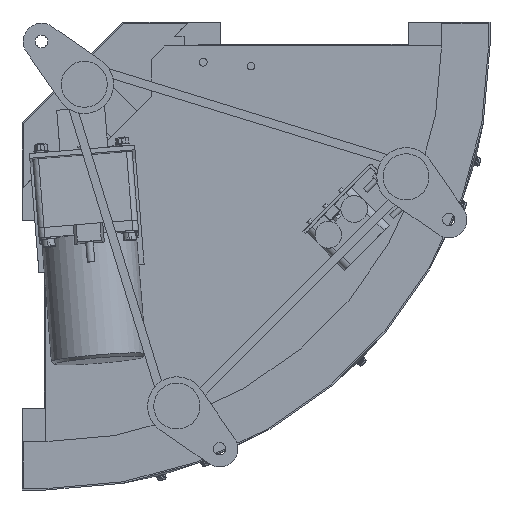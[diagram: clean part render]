
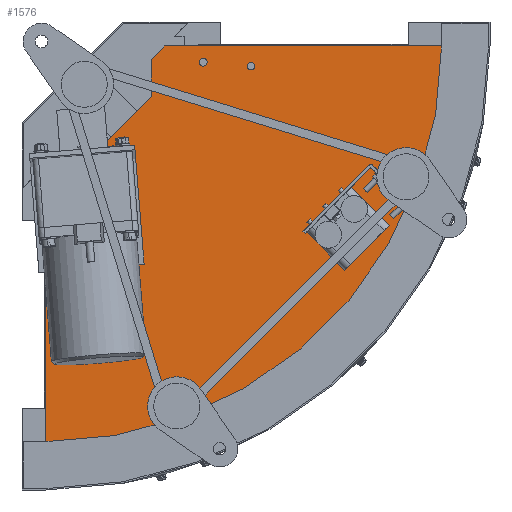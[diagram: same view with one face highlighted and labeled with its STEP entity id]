
A CAD part, front view. The second image highlights one B-rep face of the part: STEP entity #1576.
In plain terms, the highlighted planar face has unit normal (0, -1, 0).
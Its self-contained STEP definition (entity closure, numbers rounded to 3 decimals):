
#1576=ADVANCED_FACE('',(#3197,#3198,#3199,#3200,#3201),#3196,.F.);
#3196=PLANE('',#14180);
#3197=FACE_OUTER_BOUND('',#14181,.T.);
#3198=FACE_BOUND('',#14182,.T.);
#3199=FACE_BOUND('',#14183,.T.);
#3200=FACE_BOUND('',#14184,.T.);
#3201=FACE_BOUND('',#14185,.T.);
#14177=CARTESIAN_POINT('',(-10.,-142.5,-422.5));
#14178=DIRECTION('',(0.,1.,0.));
#14179=DIRECTION('',(0.,0.,1.));
#14180=AXIS2_PLACEMENT_3D('',#14177,#14178,#14179);
#14181=EDGE_LOOP('',(#21599,#21600,#21601,#21602,#21603,#21604,#21605,#21606));
#14182=EDGE_LOOP('',(#21607,#21608));
#14183=EDGE_LOOP('',(#21609,#21610));
#14184=EDGE_LOOP('',(#21611,#21612));
#14185=EDGE_LOOP('',(#21613,#21614));
#21599=ORIENTED_EDGE('',*,*,#26398,.F.);
#21600=ORIENTED_EDGE('',*,*,#26401,.F.);
#21601=ORIENTED_EDGE('',*,*,#26496,.T.);
#21602=ORIENTED_EDGE('',*,*,#26589,.F.);
#21603=ORIENTED_EDGE('',*,*,#26590,.F.);
#21604=ORIENTED_EDGE('',*,*,#26591,.F.);
#21605=ORIENTED_EDGE('',*,*,#26592,.T.);
#21606=ORIENTED_EDGE('',*,*,#26394,.F.);
#21607=ORIENTED_EDGE('',*,*,#26593,.F.);
#21608=ORIENTED_EDGE('',*,*,#26594,.F.);
#21609=ORIENTED_EDGE('',*,*,#26595,.F.);
#21610=ORIENTED_EDGE('',*,*,#26596,.F.);
#21611=ORIENTED_EDGE('',*,*,#26597,.F.);
#21612=ORIENTED_EDGE('',*,*,#26598,.F.);
#21613=ORIENTED_EDGE('',*,*,#26599,.F.);
#21614=ORIENTED_EDGE('',*,*,#26600,.F.);
#26394=EDGE_CURVE('',#29249,#29256,#29257,.T.);
#26398=EDGE_CURVE('',#29276,#29249,#29283,.T.);
#26401=EDGE_CURVE('',#29296,#29276,#29303,.T.);
#26496=EDGE_CURVE('',#29296,#29960,#29961,.T.);
#26589=EDGE_CURVE('',#30587,#29960,#30588,.T.);
#26590=EDGE_CURVE('',#30594,#30587,#30595,.T.);
#26591=EDGE_CURVE('',#30601,#30594,#30602,.T.);
#26592=EDGE_CURVE('',#30601,#29256,#30608,.T.);
#26593=EDGE_CURVE('',#30614,#30615,#30616,.T.);
#26594=EDGE_CURVE('',#30615,#30614,#30622,.T.);
#26595=EDGE_CURVE('',#30628,#30629,#30630,.T.);
#26596=EDGE_CURVE('',#30629,#30628,#30636,.T.);
#26597=EDGE_CURVE('',#30642,#30643,#30644,.T.);
#26598=EDGE_CURVE('',#30643,#30642,#30650,.T.);
#26599=EDGE_CURVE('',#30656,#30657,#30658,.T.);
#26600=EDGE_CURVE('',#30657,#30656,#30664,.T.);
#29249=VERTEX_POINT('',#46318);
#29256=VERTEX_POINT('',#46322);
#29257=LINE('',#46323,#46324);
#29276=VERTEX_POINT('',#46333);
#29283=LINE('',#46337,#46338);
#29296=VERTEX_POINT('',#46344);
#29303=LINE('',#46348,#46349);
#29960=VERTEX_POINT('',#47076);
#29961=LINE('',#47077,#47078);
#30587=VERTEX_POINT('',#47882);
#30588=LINE('',#47883,#47884);
#30594=VERTEX_POINT('',#47886);
#30595=CIRCLE('',#47890,412.5);
#30601=VERTEX_POINT('',#47891);
#30602=LINE('',#47892,#47893);
#30608=LINE('',#47895,#47896);
#30614=VERTEX_POINT('',#47898);
#30615=VERTEX_POINT('',#47899);
#30616=CIRCLE('',#47903,4.);
#30622=CIRCLE('',#47907,4.);
#30628=VERTEX_POINT('',#47908);
#30629=VERTEX_POINT('',#47909);
#30630=CIRCLE('',#47913,4.);
#30636=CIRCLE('',#47917,4.);
#30642=VERTEX_POINT('',#47918);
#30643=VERTEX_POINT('',#47919);
#30644=CIRCLE('',#47923,4.);
#30650=CIRCLE('',#47927,4.);
#30656=VERTEX_POINT('',#47928);
#30657=VERTEX_POINT('',#47929);
#30658=CIRCLE('',#47933,4.);
#30664=CIRCLE('',#47937,4.);
#46318=CARTESIAN_POINT('',(110.,-142.5,-52.635));
#46322=CARTESIAN_POINT('',(110.,-142.5,-14.1));
#46323=CARTESIAN_POINT('',(110.,-142.5,-52.635));
#46324=VECTOR('',#46325,38.535);
#46325=DIRECTION('',(0.,0.,1.));
#46333=CARTESIAN_POINT('',(52.635,-142.5,-110.));
#46337=CARTESIAN_POINT('',(52.635,-142.5,-110.));
#46338=VECTOR('',#46339,81.127);
#46339=DIRECTION('',(0.707,0.,0.707));
#46344=CARTESIAN_POINT('',(14.1,-142.5,-110.));
#46348=CARTESIAN_POINT('',(14.1,-142.5,-110.));
#46349=VECTOR('',#46350,38.535);
#46350=DIRECTION('',(1.,0.,0.));
#47076=CARTESIAN_POINT('',(0.,-142.5,-124.1));
#47077=CARTESIAN_POINT('',(14.1,-142.5,-110.));
#47078=VECTOR('',#47079,19.94);
#47079=DIRECTION('',(-0.707,0.,-0.707));
#47882=CARTESIAN_POINT('',(0.,-142.5,-412.5));
#47883=CARTESIAN_POINT('',(0.,-142.5,-412.5));
#47884=VECTOR('',#47885,288.4);
#47885=DIRECTION('',(0.,0.,1.));
#47886=CARTESIAN_POINT('',(412.5,-142.5,0.));
#47887=CARTESIAN_POINT('',(0.,-142.5,0.));
#47888=DIRECTION('',(0.,1.,0.));
#47889=DIRECTION('',(0.,0.,-1.));
#47890=AXIS2_PLACEMENT_3D('',#47887,#47888,#47889);
#47891=CARTESIAN_POINT('',(124.1,-142.5,0.));
#47892=CARTESIAN_POINT('',(124.1,-142.5,0.));
#47893=VECTOR('',#47894,288.4);
#47894=DIRECTION('',(1.,0.,0.));
#47895=CARTESIAN_POINT('',(124.1,-142.5,0.));
#47896=VECTOR('',#47897,19.94);
#47897=DIRECTION('',(-0.707,0.,-0.707));
#47898=CARTESIAN_POINT('',(21.,-142.5,-217.84));
#47899=CARTESIAN_POINT('',(21.,-142.5,-209.84));
#47900=CARTESIAN_POINT('',(21.,-142.5,-213.84));
#47901=DIRECTION('',(0.,-1.,0.));
#47902=DIRECTION('',(0.,0.,1.));
#47903=AXIS2_PLACEMENT_3D('',#47900,#47901,#47902);
#47904=CARTESIAN_POINT('',(21.,-142.5,-213.84));
#47905=DIRECTION('',(0.,-1.,0.));
#47906=DIRECTION('',(0.,0.,1.));
#47907=AXIS2_PLACEMENT_3D('',#47904,#47905,#47906);
#47908=CARTESIAN_POINT('',(17.,-142.5,-168.));
#47909=CARTESIAN_POINT('',(17.,-142.5,-160.));
#47910=CARTESIAN_POINT('',(17.,-142.5,-164.));
#47911=DIRECTION('',(0.,-1.,0.));
#47912=DIRECTION('',(0.,0.,1.));
#47913=AXIS2_PLACEMENT_3D('',#47910,#47911,#47912);
#47914=CARTESIAN_POINT('',(17.,-142.5,-164.));
#47915=DIRECTION('',(0.,-1.,0.));
#47916=DIRECTION('',(0.,0.,1.));
#47917=AXIS2_PLACEMENT_3D('',#47914,#47915,#47916);
#47918=CARTESIAN_POINT('',(164.,-142.5,-13.));
#47919=CARTESIAN_POINT('',(164.,-142.5,-21.));
#47920=CARTESIAN_POINT('',(164.,-142.5,-17.));
#47921=DIRECTION('',(0.,-1.,0.));
#47922=DIRECTION('',(0.,0.,-1.));
#47923=AXIS2_PLACEMENT_3D('',#47920,#47921,#47922);
#47924=CARTESIAN_POINT('',(164.,-142.5,-17.));
#47925=DIRECTION('',(0.,-1.,0.));
#47926=DIRECTION('',(0.,0.,-1.));
#47927=AXIS2_PLACEMENT_3D('',#47924,#47925,#47926);
#47928=CARTESIAN_POINT('',(213.84,-142.5,-17.));
#47929=CARTESIAN_POINT('',(213.84,-142.5,-25.));
#47930=CARTESIAN_POINT('',(213.84,-142.5,-21.));
#47931=DIRECTION('',(0.,-1.,0.));
#47932=DIRECTION('',(0.,0.,-1.));
#47933=AXIS2_PLACEMENT_3D('',#47930,#47931,#47932);
#47934=CARTESIAN_POINT('',(213.84,-142.5,-21.));
#47935=DIRECTION('',(0.,-1.,0.));
#47936=DIRECTION('',(0.,0.,-1.));
#47937=AXIS2_PLACEMENT_3D('',#47934,#47935,#47936);
